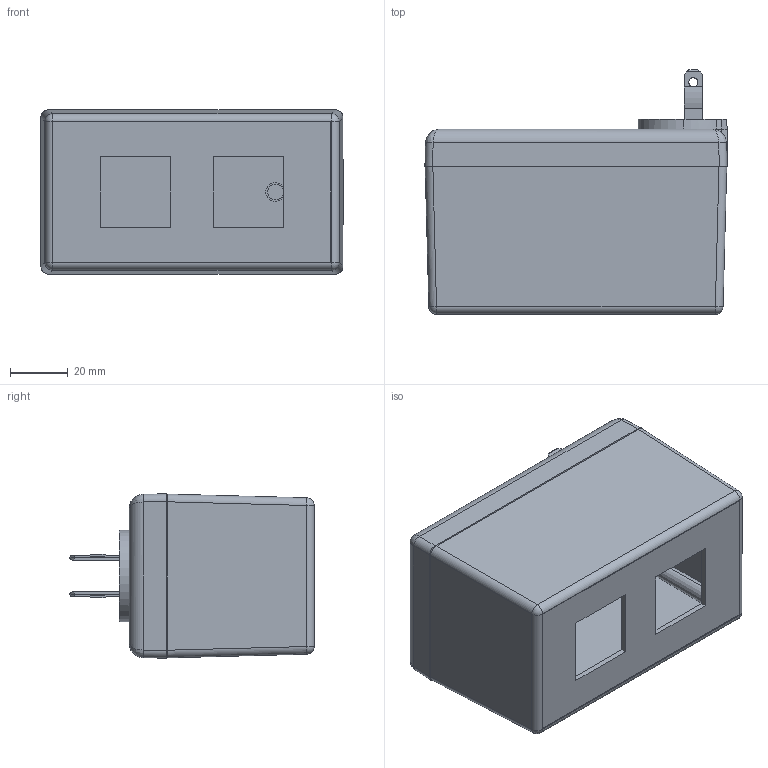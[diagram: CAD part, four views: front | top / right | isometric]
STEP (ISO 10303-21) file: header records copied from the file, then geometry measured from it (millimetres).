
FILE_DESCRIPTION (( 'STEP AP214' ), '1' );
FILE_NAME ('PM2425R22XNT.STEP', '2010-07-15T14:17:55', ( '' ), ( '' ), 'SwSTEP 2.0', 'SolidWorks 2010', '' );
FILE_SCHEMA (( 'AUTOMOTIVE_DESIGN' ));
Length unit declared in the file: inch
Products named in the file (8): TS-2420B AND PM2420_PM2420R2; B2405 ASS''Y_B24052XNT; MPB2405_MPB24052NT; BLADES; WELD DISC-PS-BK; SCREWS-HL1-BR; B2405-PCB; PM2425R22XNT
Assembly tree (11 placements, depth 3):
  PM2425R22XNT
    SCREWS-HL1-BR  x4
    TS-2420B AND PM2420_PM2420R2
    B2405 ASS''Y_B24052XNT
      WELD DISC-PS-BK
      BLADES  x2
      MPB2405_MPB24052NT
    B2405-PCB
Bounding box: 104.6 x 84.55 x 56.95 mm (x, y, z)
Volume: 84969.7 mm3; surface area: 80230.6 mm2
Topology: 10 solids, 10 shells, 892 faces, 2487 edges, 1624 vertices
Faces by surface type: cylinder 486, plane 285, cone 77, bspline 28, sphere 12, torus 4
Entity records: 18608 total; most frequent: CARTESIAN_POINT 6169, ORIENTED_EDGE 2688, DIRECTION 2388, EDGE_CURVE 1344, VERTEX_POINT 874, AXIS2_PLACEMENT_3D 832, VECTOR 724, LINE 724
